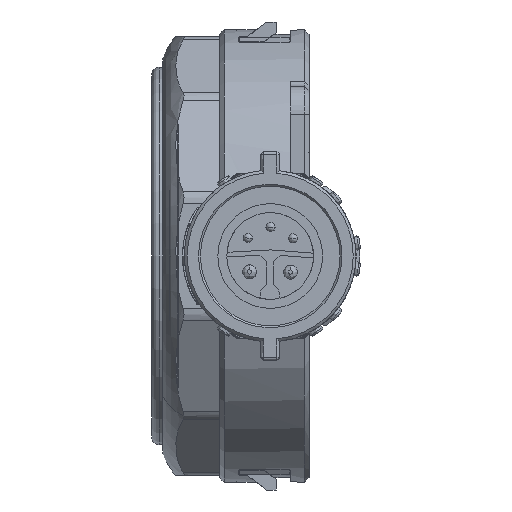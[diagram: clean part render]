
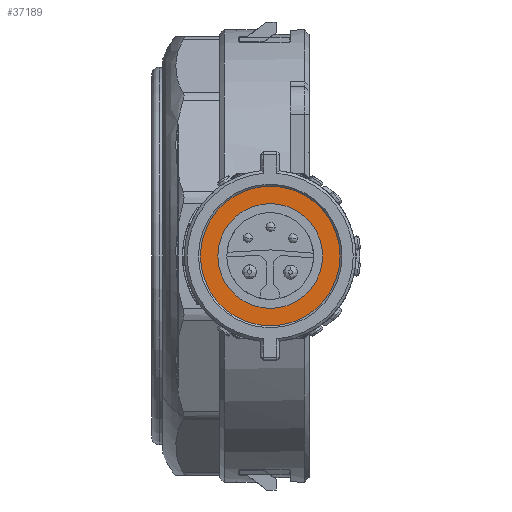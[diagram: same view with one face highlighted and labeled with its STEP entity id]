
A CAD part, left-side view. The second image highlights one B-rep face of the part: STEP entity #37189.
In plain terms, the highlighted planar face has unit normal (-1, 0, 0).
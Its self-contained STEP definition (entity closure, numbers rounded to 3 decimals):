
#447 = FACE_OUTER_BOUND ( 'NONE', #5584, .T. ) ;
#3919 = EDGE_CURVE ( 'NONE', #38522, #38522, #29570, .T. ) ;
#5584 = EDGE_LOOP ( 'NONE', ( #60607 ) ) ;
#8922 = PLANE ( 'NONE',  #77875 ) ;
#9150 = ORIENTED_EDGE ( 'NONE', *, *, #3919, .F. ) ;
#10565 = CARTESIAN_POINT ( 'NONE',  ( 6.89, -7.4, 0. ) ) ;
#22647 = AXIS2_PLACEMENT_3D ( 'NONE', #70394, #39659, #64333 ) ;
#26322 = DIRECTION ( 'NONE',  ( 0., -1., 0. ) ) ;
#29570 = CIRCLE ( 'NONE', #39915, 5.55 ) ;
#31832 = DIRECTION ( 'NONE',  ( 0., -1., 0. ) ) ;
#32125 = EDGE_LOOP ( 'NONE', ( #9150 ) ) ;
#33601 = CARTESIAN_POINT ( 'NONE',  ( 6.89, 0., 0. ) ) ;
#37118 = CARTESIAN_POINT ( 'NONE',  ( 6.89, 0., 0. ) ) ;
#37189 = ADVANCED_FACE ( 'NONE', ( #55844, #447 ), #8922, .T. ) ;
#37897 = DIRECTION ( 'NONE',  ( -1., 0., 0. ) ) ;
#38522 = VERTEX_POINT ( 'NONE', #75675 ) ;
#39659 = DIRECTION ( 'NONE',  ( 1., 0., 0. ) ) ;
#39724 = VERTEX_POINT ( 'NONE', #10565 ) ;
#39915 = AXIS2_PLACEMENT_3D ( 'NONE', #37118, #37897, #31832 ) ;
#55844 = FACE_BOUND ( 'NONE', #32125, .T. ) ;
#55988 = EDGE_CURVE ( 'NONE', #39724, #39724, #63985, .T. ) ;
#60607 = ORIENTED_EDGE ( 'NONE', *, *, #55988, .F. ) ;
#63985 = CIRCLE ( 'NONE', #22647, 7.4 ) ;
#64333 = DIRECTION ( 'NONE',  ( 0., -1., 0. ) ) ;
#70394 = CARTESIAN_POINT ( 'NONE',  ( 6.89, 0., 0. ) ) ;
#75675 = CARTESIAN_POINT ( 'NONE',  ( 6.89, -5.55, 0. ) ) ;
#76399 = DIRECTION ( 'NONE',  ( -1., 0., 0. ) ) ;
#77875 = AXIS2_PLACEMENT_3D ( 'NONE', #33601, #76399, #26322 ) ;
